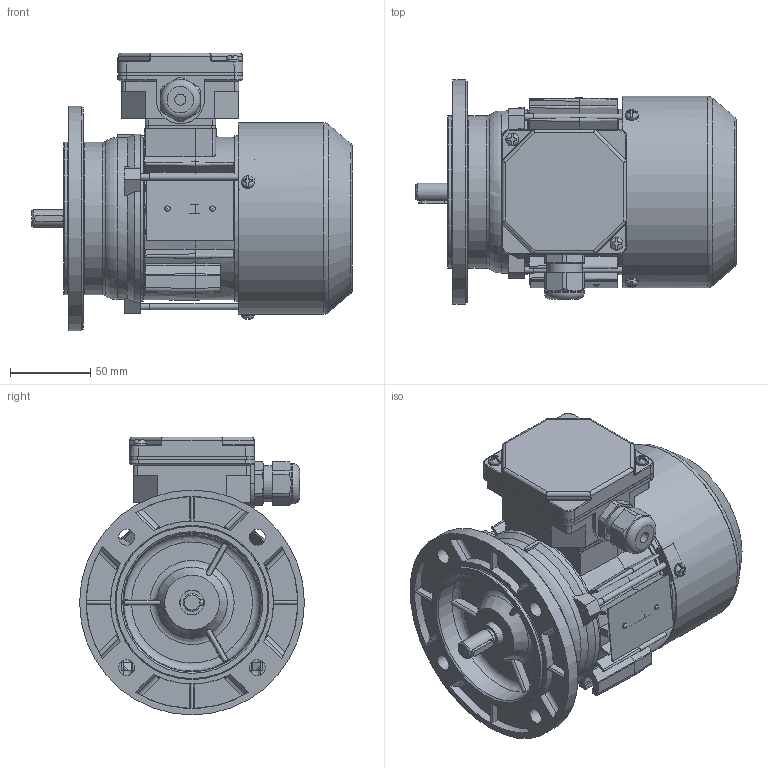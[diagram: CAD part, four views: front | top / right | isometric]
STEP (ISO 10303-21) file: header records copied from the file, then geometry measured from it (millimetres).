
FILE_DESCRIPTION(/* description */ ('Unknown'),/* implementation_level */ '2;1');
FILE_NAME(/* name */ '2SIEK63-4A',/* time_stamp */ '2021-04-12T11:43:36+02:00',/* author */ ('Unknown'),/* organization */ ('Unknown'),/* preprocessor_version */ 'ST-DEVELOPER v16.7',/* originating_system */ 'Solid Edge',/* authorisation */ 'Unknown');
FILE_SCHEMA (('AUTOMOTIVE_DESIGN {1 0 10303 214 3 1 1}'));
Length unit declared in the file: millimetre
Products named in the file (1): 2SIEK63-4A
Bounding box: 199.49 x 140 x 173 mm (x, y, z)
Volume: 509710.5 mm3; surface area: 317335.1 mm2
Topology: 2 solids, 2 shells, 1756 faces, 4949 edges, 3227 vertices
Faces by surface type: plane 900, cylinder 519, torus 112, cone 112, bspline 92, sphere 21
Full cylindrical faces by diameter (mm): 2.4 x2, 3.3 x3, 3.7 x7, 4 x5, 4.5 x3, 4.8 x2, 5 x2, 7 x4, 8 x6, 10 x4, 10.599 x1, 10.999 x1, 12.899 x1, 13.099 x1, 14.998 x2, 15.4 x2, 18.998 x2, 19.498 x1, 19.698 x1, 19.998 x1, 20.098 x1, 21.518 x4, 22.3 x1, 25 x1, 28 x2, 28.48 x4, 31 x2, 35 x3, 71.993 x1, 95 x2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
Entity records: 71053 total; most frequent: CARTESIAN_POINT 15283, ORIENTED_EDGE 9258, DIRECTION 8658, EDGE_CURVE 4629, AXIS2_PLACEMENT_3D 3188, VERTEX_POINT 3106, LINE 2282, VECTOR 2282
